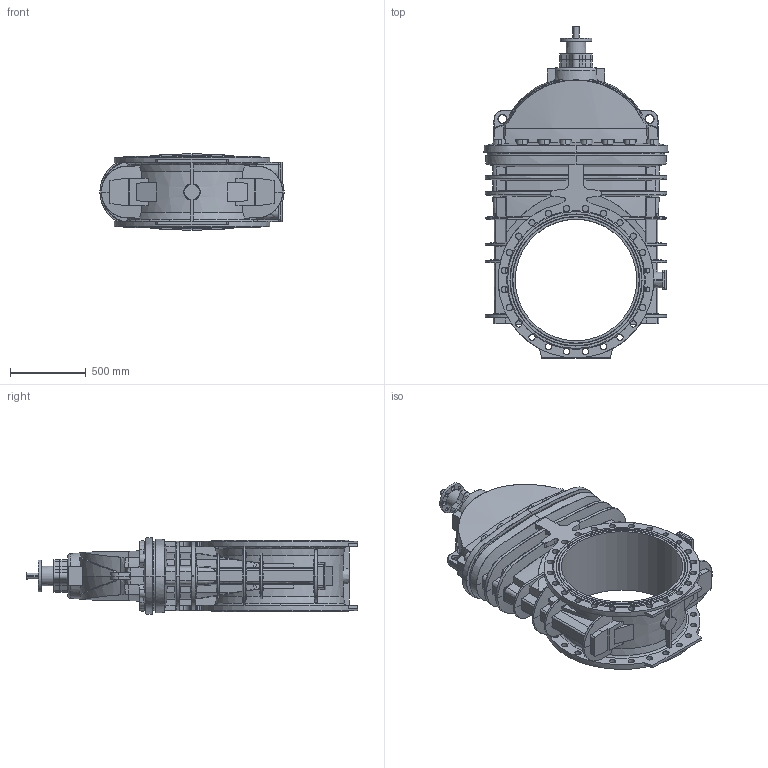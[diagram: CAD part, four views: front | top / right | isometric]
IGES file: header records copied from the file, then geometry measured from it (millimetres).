
Start section: SolidWorks IGES file using analytic representation for surfaces
Global section: file name: \\avksan2\techshare\PBM outline export from Enovia\O_06_30_DN800_X1XXX_AA0.igs; native system: SolidWorks 2012; preprocessor: SolidWorks 2012; author: pbm; date: 191113.113501; units: millimetre
Bounding box: 1212 x 2184.5 x 506 mm (x, y, z)
Surface area: 8926763.1 mm2 (no closed solid volume)
Topology: 0 solids, 0 shells, 889 faces, 5764 edges, 5657 vertices
Faces by surface type: bspline 509, revolution 380
